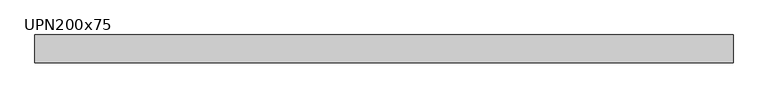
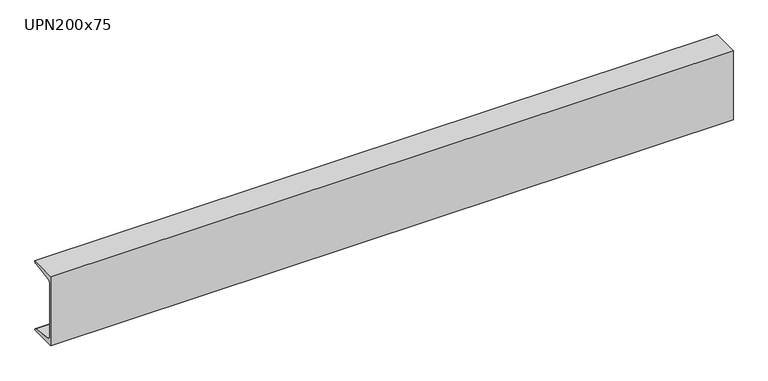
"""IFC4 building model written with IfcOpenShell, lengths in millimetres: beam geometry, M_MC Shapes : UPN200x75."""

from ifc_helpers import new_model, si_unit, point, frame, frame_2d, origin, place, context, project, spatial, polyline, circle_curve, trimmed, segment, composite_curve, outline, extrude, source, transform, mapped, element, save


def upn200x75_de5bd99d(model_context):
    return source(origin(), model_context, "Body", "SweptSolid", [
        extrude(outline(composite_curve([segment(polyline([(-10.9, 100.0), (64.1, 100.0), (64.1, 99.0253247)]), True, "CONTINUOUS"), segment(trimmed(circle_curve(frame_2d((60.15, 99.0253247)), 3.95), [point((64.1, 99.0253247))], [point((60.7993773, 95.1290689))], False, "CARTESIAN"), True, "CONTINUOUS"), segment(polyline([(60.7993773, 95.1290689), (0.2512455, 85.0376935)]), True, "CONTINUOUS"), segment(trimmed(circle_curve(frame_2d((1.55, 77.2451819)), 7.9), [point((0.2512455, 85.0376935))], [point((-6.35, 77.2451819))], True, "CARTESIAN"), True, "CONTINUOUS"), segment(polyline([(-6.35, 77.2451819), (-6.35, -77.2451819)]), True, "CONTINUOUS"), segment(trimmed(circle_curve(frame_2d((1.55, -77.2451819)), 7.9), [point((-6.35, -77.2451819))], [point((0.2512455, -85.0376935))], True, "CARTESIAN"), True, "CONTINUOUS"), segment(polyline([(0.2512455, -85.0376935), (60.7993773, -95.1290689)]), True, "CONTINUOUS"), segment(trimmed(circle_curve(frame_2d((60.15, -99.0253247)), 3.95), [point((60.7993773, -95.1290689))], [point((64.1, -99.0253247))], False, "CARTESIAN"), True, "CONTINUOUS"), segment(polyline([(64.1, -99.0253247), (64.1, -100.0), (-10.9, -100.0), (-10.9, 100.0)]), True, "CONTINUOUS")], self_intersect=False)), frame((-934.0, 0.0, 0.0), z_axis=(1.0, 0.0, 0.0), x_axis=(0.0, 1.0, 0.0)), (0.0, 0.0, 1.0), 1868.0),
    ])


if __name__ == "__main__":
    model = new_model("IFC4")
    model_context = context("Model", 3, world=origin())
    ifc_project = project(units=[si_unit("LENGTHUNIT", "METRE", prefix="MILLI")], contexts=[model_context])
    site = spatial("IfcSite", under=ifc_project)
    building = spatial("IfcBuilding", under=site)
    placement = place(None, origin())
    upn200x75_shape = upn200x75_de5bd99d(model_context)
    element("IfcBeam", 1, ObjectType="M_MC Shapes : UPN200x75", at=placement, inside=building, context=model_context, shape_type="MappedRepresentation", body=[
        mapped(upn200x75_shape, transform((0.0, 0.0, 0.0), x_axis=(1.0, 0.0, 0.0), y_axis=(0.0, 1.0, 0.0), z_axis=(0.0, 0.0, 1.0))),
    ])
    save(model, "model.ifc")
